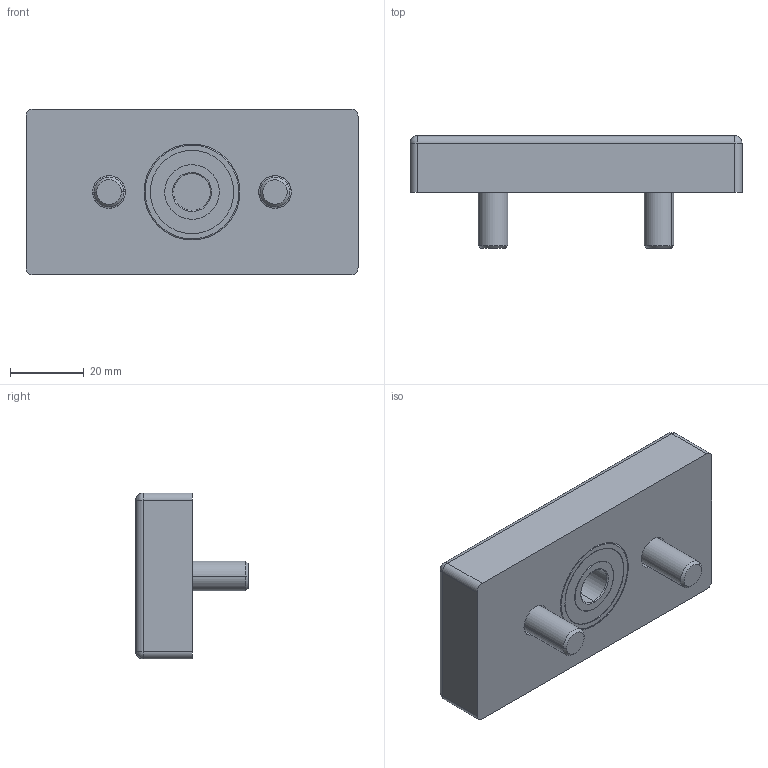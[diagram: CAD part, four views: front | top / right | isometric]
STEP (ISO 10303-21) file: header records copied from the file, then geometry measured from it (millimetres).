
FILE_DESCRIPTION (( 'STEP AP214' ), '1' );
FILE_NAME ('1.8125 KPS yksikön laakerilevy.STEP', '2026-03-25T07:41:03', ( '' ), ( '' ), 'SwSTEP 2.0', 'SolidWorks 2025', '' );
FILE_SCHEMA (( 'AUTOMOTIVE_DESIGN' ));
Length unit declared in the file: millimetre
Products named in the file (1): 1.8125 KPS yksikön laakerilevy
Bounding box: 90 x 30.5 x 45 mm (x, y, z)
Volume: 61558 mm3; surface area: 17485.9 mm2
Topology: 4 solids, 4 shells, 111 faces, 238 edges, 138 vertices
Faces by surface type: plane 45, cylinder 38, torus 16, cone 8, sphere 4
Entity records: 4223 total; most frequent: DIRECTION 578, CARTESIAN_POINT 480, ORIENTED_EDGE 460, AXIS2_PLACEMENT_3D 236, EDGE_CURVE 230, VERTEX_POINT 138, EDGE_LOOP 128, CIRCLE 124
